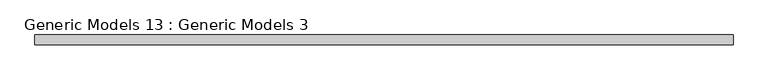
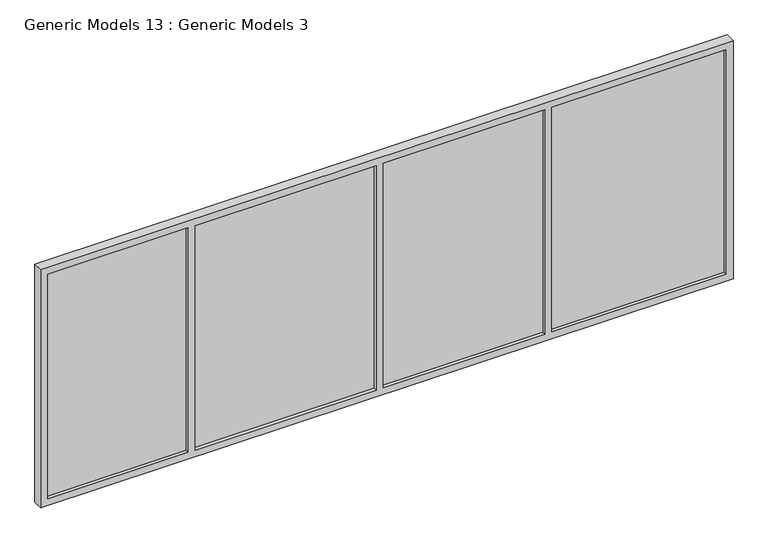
"""IFC4 building model written with IfcOpenShell, lengths in millimetres: proxy geometry, Generic Models 13 : Generic Models 3."""

import ifcopenshell
import ifcopenshell.guid

model = None  # the IFC model being written
_history = None  # IfcOwnerHistory: only IFC2X3 demands one
_inside = {}  # id of a spatial element -> (the spatial element, [elements in it])
_under = {}  # id of a project, library or spatial element -> (it, [spatial elements below it])
_declared = {}  # id of a project -> (the project, [libraries it declares])
_typed = {}  # id of a type object -> (the type object, [elements of that type])
_made_of = {}  # id of a material, layer set ... -> (it, [elements and type objects made of it])


def new_model(schema):
    """Start an empty IFC model of exactly this schema.

    Asked for "IFC4X3", IfcOpenShell would pick the latest addendum, in which some entities
    have other attributes; the version numbers below select the first issue.
    IFC2X3 requires an IfcOwnerHistory on every rooted entity: one is made here for all.
    """
    global model, _history
    if schema == "IFC4X3":
        model = ifcopenshell.file(schema_version=(4, 3, 0, 0))
    else:
        model = ifcopenshell.file(schema=schema)
    _inside.clear()
    _under.clear()
    _declared.clear()
    _typed.clear()
    _made_of.clear()
    _history = None
    if model.schema == "IFC2X3":
        org = make("IfcOrganization", Name="unknown")
        user = make(
            "IfcPersonAndOrganization",
            ThePerson=make("IfcPerson", FamilyName="unknown"),
            TheOrganization=org,
        )
        app = make(
            "IfcApplication",
            ApplicationDeveloper=org,
            Version="unknown",
            ApplicationFullName="unknown",
            ApplicationIdentifier="unknown",
        )
        _history = make(
            "IfcOwnerHistory",
            OwningUser=user,
            OwningApplication=app,
            ChangeAction="ADDED",
            CreationDate=0,
        )
    return model


def make(cls, **values):
    """One entity of the class cls with the attributes given. An attribute that is None is left unset."""
    return model.create_entity(
        cls, **{name: value for name, value in values.items() if value is not None}
    )


def rooted(cls, **values):
    """An entity with a GlobalId (a new one), such as an element, a storey or a relation."""
    return make(cls, GlobalId=ifcopenshell.guid.new(), OwnerHistory=_history, **values)


def si_unit(unit_type, name, prefix=None):
    """IfcSIUnit, for example si_unit("LENGTHUNIT", "METRE", prefix="MILLI")."""
    return make("IfcSIUnit", UnitType=unit_type, Prefix=prefix, Name=name)


def assignment(units):
    """IfcUnitAssignment: the units of a project."""
    return None if units is None else make("IfcUnitAssignment", Units=units)


def point(xyz):
    """IfcCartesianPoint."""
    return None if xyz is None else make("IfcCartesianPoint", Coordinates=xyz)


def direction(xyz):
    """IfcDirection."""
    return None if xyz is None else make("IfcDirection", DirectionRatios=xyz)


def frame(location, z_axis=None, x_axis=None):
    """IfcAxis2Placement3D, a coordinate frame: its origin and axes. An axis left out is left unset."""
    return make(
        "IfcAxis2Placement3D",
        Location=point(location),
        Axis=direction(z_axis),
        RefDirection=direction(x_axis),
    )


def origin():
    """The frame at (0, 0, 0) with its axes left unset."""
    return frame((0.0, 0.0, 0.0))


def place(relative_to, where):
    """IfcLocalPlacement: puts the frame where relative to a parent placement (None: the world)."""
    return make(
        "IfcLocalPlacement", PlacementRelTo=relative_to, RelativePlacement=where
    )


def context(
    kind, dimensions, precision=None, world=None, true_north=None, identifier=None
):
    """IfcGeometricRepresentationContext, for example the 3D "Model" context."""
    return make(
        "IfcGeometricRepresentationContext",
        ContextIdentifier=identifier,
        ContextType=kind,
        CoordinateSpaceDimension=dimensions,
        Precision=precision,
        WorldCoordinateSystem=world,
        TrueNorth=true_north,
    )


def project(units=None, contexts=None):
    """IfcProject with its units and contexts."""
    return rooted(
        "IfcProject",
        Name="project",
        RepresentationContexts=contexts,
        UnitsInContext=assignment(units),
    )


def spatial(cls, under=None, at=None, **own):
    """A site, building, storey or space (cls), placed at a placement, below another one or the project."""
    s = rooted(cls, ObjectPlacement=at, **own)
    if under is not None:
        _under.setdefault(under.id(), (under, []))[1].append(s)
    return s


def polyline(points):
    """IfcPolyline through the points."""
    return make("IfcPolyline", Points=[point(p) for p in points])


def outline(outer, holes=None, kind="AREA"):
    """IfcArbitraryClosedProfileDef: a profile drawn as a closed curve; with holes, ...WithVoids."""
    if holes is None:
        return make("IfcArbitraryClosedProfileDef", ProfileType=kind, OuterCurve=outer)
    return make(
        "IfcArbitraryProfileDefWithVoids",
        ProfileType=kind,
        OuterCurve=outer,
        InnerCurves=holes,
    )


def extrude(swept, where, along, depth):
    """IfcExtrudedAreaSolid: the profile swept, set in the frame where, extruded along a direction by depth."""
    return make(
        "IfcExtrudedAreaSolid",
        SweptArea=swept,
        Position=where,
        ExtrudedDirection=direction(along),
        Depth=depth,
    )


def shape(context_of_items, identifier, shape_type, items):
    """IfcShapeRepresentation: the items that make up one representation, for example the "Body"."""
    return make(
        "IfcShapeRepresentation",
        ContextOfItems=context_of_items,
        RepresentationIdentifier=identifier,
        RepresentationType=shape_type,
        Items=items,
    )


def source(mapping_origin, context_of_items, identifier, shape_type, items):
    """IfcRepresentationMap: a shape defined once, which mapped items show again and again."""
    return make(
        "IfcRepresentationMap",
        MappingOrigin=mapping_origin,
        MappedRepresentation=shape(context_of_items, identifier, shape_type, items),
    )


def transform(
    local_origin,
    x_axis=None,
    y_axis=None,
    z_axis=None,
    scale=None,
    scale2=None,
    scale3=None,
    uniform=True,
):
    """IfcCartesianTransformationOperator3D, or its non-uniform kind. x_axis, y_axis, z_axis: its Axis1, 2, 3."""
    if uniform:
        return make(
            "IfcCartesianTransformationOperator3D",
            Axis1=direction(x_axis),
            Axis2=direction(y_axis),
            LocalOrigin=point(local_origin),
            Scale=scale,
            Axis3=direction(z_axis),
        )
    return make(
        "IfcCartesianTransformationOperator3DnonUniform",
        Axis1=direction(x_axis),
        Axis2=direction(y_axis),
        LocalOrigin=point(local_origin),
        Scale=scale,
        Axis3=direction(z_axis),
        Scale2=scale2,
        Scale3=scale3,
    )


def mapped(mapping_source, mapping_target):
    """IfcMappedItem: shows the shape of a source again, moved by a transform."""
    return make(
        "IfcMappedItem", MappingSource=mapping_source, MappingTarget=mapping_target
    )


def made_of(thing, what):
    """Note that an element or type object is made of a material, layer set ...; save() writes the relation."""
    if what is not None:
        _made_of.setdefault(what.id(), (what, []))[1].append(thing)
    return thing


def element(
    cls,
    number,
    at=None,
    inside=None,
    cuts=None,
    type_object=None,
    material=None,
    context=None,
    identifier="Body",
    shape_type=None,
    held_by="IfcProductDefinitionShape",
    body=None,
    shapes=None,
    **own,
):
    """One element of the class cls, such as IfcWall. Its Tag is "e" and its number.

    at: its placement. inside: the storey or other place that contains it. cuts: it is an
    opening in that element (IfcRelVoidsElement). A single representation is given by context,
    identifier, shape_type and body (its items); several are given by shapes. held_by: the class
    of the entity that holds the representations. save() writes the other relations.
    """
    e = rooted(cls, Tag="e%d" % number, ObjectPlacement=at, **own)
    if body is not None:
        shapes = [shape(context, identifier, shape_type, body)]
    if shapes is not None:
        e.Representation = make(held_by, Representations=shapes)
    if inside is not None:
        _inside.setdefault(inside.id(), (inside, []))[1].append(e)
    if cuts is not None:
        rooted(
            "IfcRelVoidsElement", RelatingBuildingElement=cuts, RelatedOpeningElement=e
        )
    if type_object is not None:
        _typed.setdefault(type_object.id(), (type_object, []))[1].append(e)
    return made_of(e, material)


def aggregate(whole, parts):
    """IfcRelAggregates: a whole, such as a stair, and the parts it consists of."""
    return rooted("IfcRelAggregates", RelatingObject=whole, RelatedObjects=parts)


def save(model, path):
    """Write the relations noted so far, then the file.

    IfcRelAggregates (storeys below a building ...), IfcRelContainedInSpatialStructure (elements
    in a storey), IfcRelDefinesByType, IfcRelAssociatesMaterial and IfcRelDeclares: one each for
    every whole, place, type object, material and project.
    """
    for whole, parts in _under.values():
        aggregate(whole, parts)
    for where, things in _inside.values():
        rooted(
            "IfcRelContainedInSpatialStructure",
            RelatedElements=things,
            RelatingStructure=where,
        )
    for kind, things in _typed.values():
        rooted("IfcRelDefinesByType", RelatedObjects=things, RelatingType=kind)
    for what, things in _made_of.values():
        rooted("IfcRelAssociatesMaterial", RelatedObjects=things, RelatingMaterial=what)
    for by, libraries in _declared.values():
        rooted("IfcRelDeclares", RelatingContext=by, RelatedDefinitions=libraries)
    model.write(path)


def generic_models_13_generic_models_3_8eee40ac(model_context):
    return source(origin(), model_context, "Body", "SweptSolid", [
        extrude(outline(polyline([(-6313.3274035, -3952.4385624), (-7533.4335059, -3952.4385624), (-7533.4335059, -3921.6857931), (-6313.3274035, -3921.6857931), (-6313.3274035, -3952.4385624)])), frame((0.0, 0.0, 9785.2920568), z_axis=(0.0, 0.0, 1.0), x_axis=(1.0, 0.0, 0.0)), (0.0, 0.0, 1.0), 1664.7079432),
        extrude(outline(polyline([(-7583.4335059, -3952.4385624), (-8715.4354417, -3952.4385624), (-8715.4354417, -3921.6857931), (-7583.4335059, -3921.6857931), (-7583.4335059, -3952.4385624)])), frame((0.0, 0.0, 9785.2920568), z_axis=(0.0, 0.0, 1.0), x_axis=(1.0, 0.0, 0.0)), (0.0, 0.0, 1.0), 1664.7079432),
        extrude(outline(polyline([(-8765.4354417, -3952.4385624), (-10035.4354417, -3952.4385624), (-10035.4354417, -3921.6857931), (-8765.4354417, -3921.6857931), (-8765.4354417, -3952.4385624)])), frame((0.0, 0.0, 9785.2920568), z_axis=(0.0, 0.0, 1.0), x_axis=(1.0, 0.0, 0.0)), (0.0, 0.0, 1.0), 1664.7079432),
        extrude(outline(polyline([(-10085.4354417, -3952.4385624), (-11068.5171482, -3952.4385624), (-11068.5171482, -3921.6857931), (-10085.4354417, -3921.6857931), (-10085.4354417, -3952.4385624)])), frame((0.0, 0.0, 9785.2920568), z_axis=(0.0, 0.0, 1.0), x_axis=(1.0, 0.0, 0.0)), (0.0, 0.0, 1.0), 1664.7079432),
        extrude(outline(polyline([(9735.2920568, -6263.3274035), (11500.0, -6263.3274035), (11500.0, -11118.5171482), (9735.2920568, -11118.5171482), (9735.2920568, -6263.3274035)]), holes=[polyline([(9785.2920568, -6313.3274035), (9785.2920568, -7533.4335059), (11450.0, -7533.4335059), (11450.0, -6313.3274035), (9785.2920568, -6313.3274035)]), polyline([(11450.0, -7583.4335059), (9785.2920568, -7583.4335059), (9785.2920568, -8715.4354417), (11450.0, -8715.4354417), (11450.0, -7583.4335059)]), polyline([(11450.0, -10085.4354417), (9785.2920568, -10085.4354417), (9785.2920568, -11068.5171482), (11450.0, -11068.5171482), (11450.0, -10085.4354417)]), polyline([(9785.2920568, -10035.4354417), (11450.0, -10035.4354417), (11450.0, -8765.4354417), (9785.2920568, -8765.4354417), (9785.2920568, -10035.4354417)])]), frame((0.0, -3977.8385624, 0.0), z_axis=(0.0, 1.0, 0.0), x_axis=(0.0, 0.0, 1.0)), (0.0, 0.0, 1.0), 69.85),
    ])


if __name__ == "__main__":
    model = new_model("IFC4")
    model_context = context("Model", 3, world=origin())
    ifc_project = project(units=[si_unit("LENGTHUNIT", "METRE", prefix="MILLI")], contexts=[model_context])
    site = spatial("IfcSite", under=ifc_project)
    building = spatial("IfcBuilding", under=site)
    placement = place(None, origin())
    generic_models_13_generic_models_3_shape = generic_models_13_generic_models_3_8eee40ac(model_context)
    element("IfcBuildingElementProxy", 1, Name="Generic Models 13 : Generic Models 3", ObjectType="Generic Models 13 : Generic Models 3", at=placement, inside=building, context=model_context, shape_type="MappedRepresentation", body=[
        mapped(generic_models_13_generic_models_3_shape, transform((0.0, 0.0, 0.0), x_axis=(1.0, 0.0, 0.0), y_axis=(0.0, 1.0, 0.0), z_axis=(0.0, 0.0, 1.0))),
    ])
    save(model, "model.ifc")
